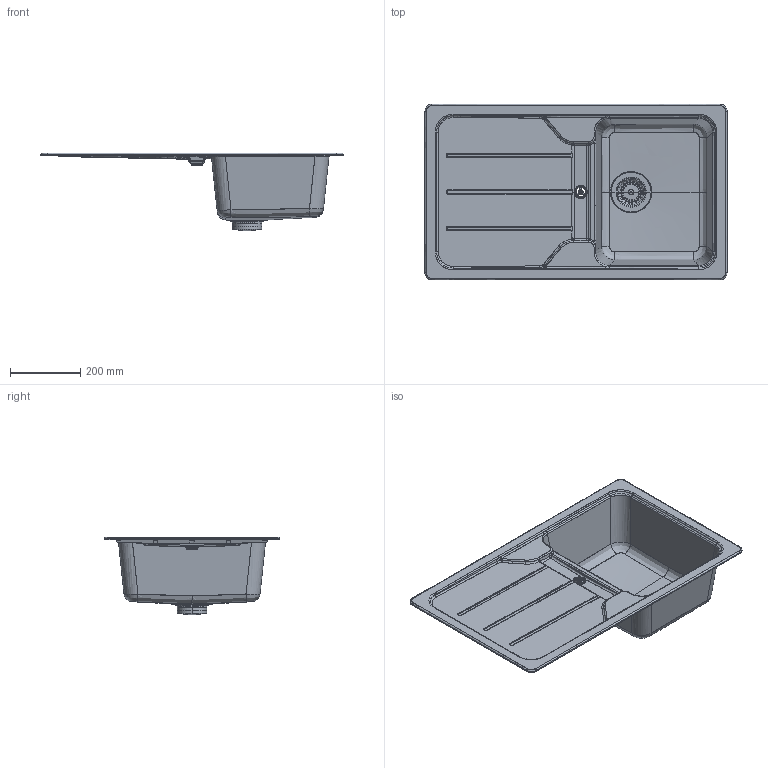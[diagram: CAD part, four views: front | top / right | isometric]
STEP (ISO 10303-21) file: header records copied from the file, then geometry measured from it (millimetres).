
FILE_DESCRIPTION(/* description */ (''),/* implementation_level */ '2;1');
FILE_NAME(/* name */ 'FORD100',/* time_stamp */ '2014-11-03T16:30:31+01:00',/* author */ (''),/* organization */ (''),/* preprocessor_version */ 'ST-DEVELOPER v15',/* originating_system */ '',/* authorisation */ '');
FILE_SCHEMA (('AUTOMOTIVE_DESIGN'));
Length unit declared in the file: millimetre
Products named in the file (1): Document
Bounding box: 860 x 500 x 221.43 mm (x, y, z)
Volume: 31105.3 mm3; surface area: 764409.3 mm2
Topology: 3 solids, 315 shells, 493 faces, 1738 edges, 1514 vertices
Faces by surface type: bspline 440, plane 53
Entity records: 73346 total; most frequent: CARTESIAN_POINT 63598, ORIENTED_EDGE 2324, EDGE_CURVE 1728, VERTEX_POINT 1515, B_SPLINE_CURVE_WITH_KNOTS 1375, EDGE_LOOP 580, ADVANCED_FACE 493, FACE_OUTER_BOUND 493
